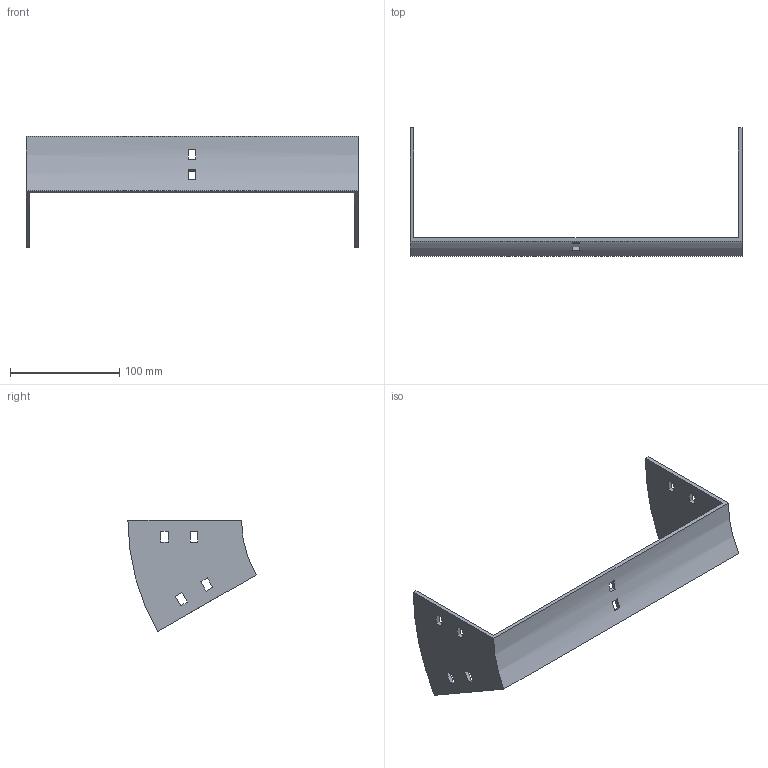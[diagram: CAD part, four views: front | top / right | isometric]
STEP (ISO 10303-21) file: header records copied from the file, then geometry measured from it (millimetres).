
FILE_DESCRIPTION (( 'STEP AP214' ), '1' );
FILE_NAME ('35B1D300.step', '2025-02-21T09:24:30', ( '' ), ( '' ), 'SwSTEP 2.0', 'SolidWorks 2023', '' );
FILE_SCHEMA (( 'AUTOMOTIVE_DESIGN' ));
Length unit declared in the file: millimetre
Products named in the file (1): 35B1D300
Bounding box: 304 x 117.4 x 102 mm (x, y, z)
Volume: 110944.8 mm3; surface area: 68845.4 mm2
Topology: 1 solids, 1 shells, 50 faces, 144 edges, 96 vertices
Faces by surface type: plane 46, cylinder 4
Entity records: 1687 total; most frequent: CARTESIAN_POINT 291, ORIENTED_EDGE 288, DIRECTION 262, EDGE_CURVE 144, VECTOR 128, LINE 128, VERTEX_POINT 96, EDGE_LOOP 70
